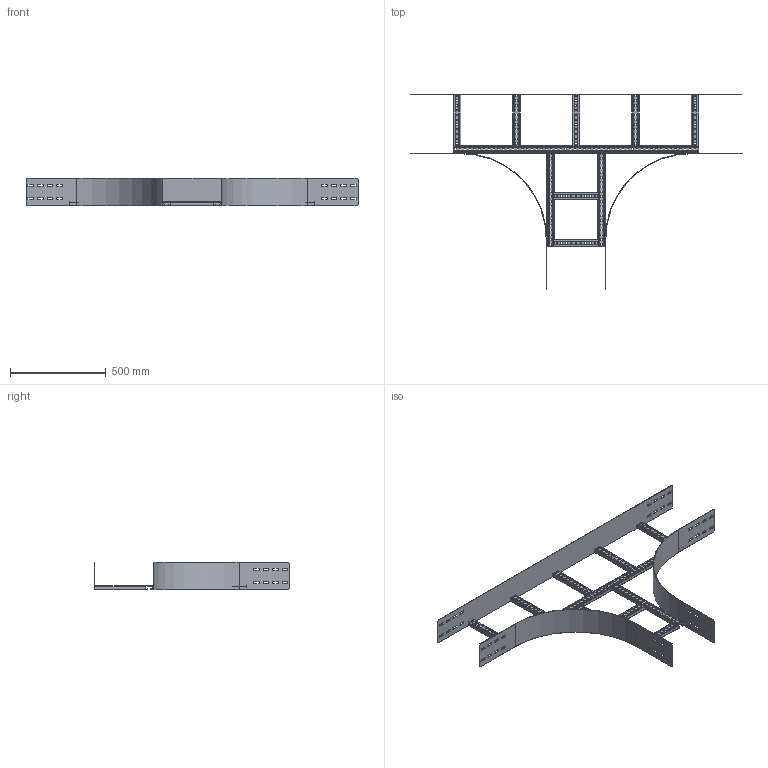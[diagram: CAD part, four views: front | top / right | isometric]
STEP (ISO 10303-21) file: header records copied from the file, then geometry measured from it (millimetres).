
FILE_DESCRIPTION(('Creo Elements/Direct Modeling STEP Export'),'2;1');
FILE_NAME('WPTP15-30-45.stp','2016-06-03T 8:38:21',(''),(''),'PTC Creo Elements/Direct Modeling STEP processor for AP214 (Solid Model)','PTC Creo Elements/Direct Modeling 19.0C 15-Aug-2015 (C) Parametric Technology GmbH','');
FILE_SCHEMA(('AUTOMOTIVE_DESIGN { 1 0 10303 214 1 1 1 1 }'));
Length unit declared in the file: millimetre
Products named in the file (7): WPBI_150.1; WPKSP2_300.1; WPTPS30.1; WPKS30; WPAAG_150-30; WPKSP1-30; WPTP15-30-45
Assembly tree (13 placements, depth 2):
  WPTP15-30-45
    WPKSP1-30
    WPKS30  x2
    WPTPS30.1  x5
    WPAAG_150-30
    WPKSP2_300.1  x2
    WPBI_150.1  x2
Bounding box: 1735 x 1023 x 145 mm (x, y, z)
Volume: 2371542.3 mm3; surface area: 2043623 mm2
Topology: 13 solids, 13 shells, 1304 faces, 3834 edges, 2556 vertices
Faces by surface type: plane 776, cylinder 528
Entity records: 23473 total; most frequent: CARTESIAN_POINT 4038, ORIENTED_EDGE 4032, DIRECTION 3906, EDGE_CURVE 2016, VECTOR 1482, LINE 1482, VERTEX_POINT 1344, AXIS2_PLACEMENT_3D 1212
